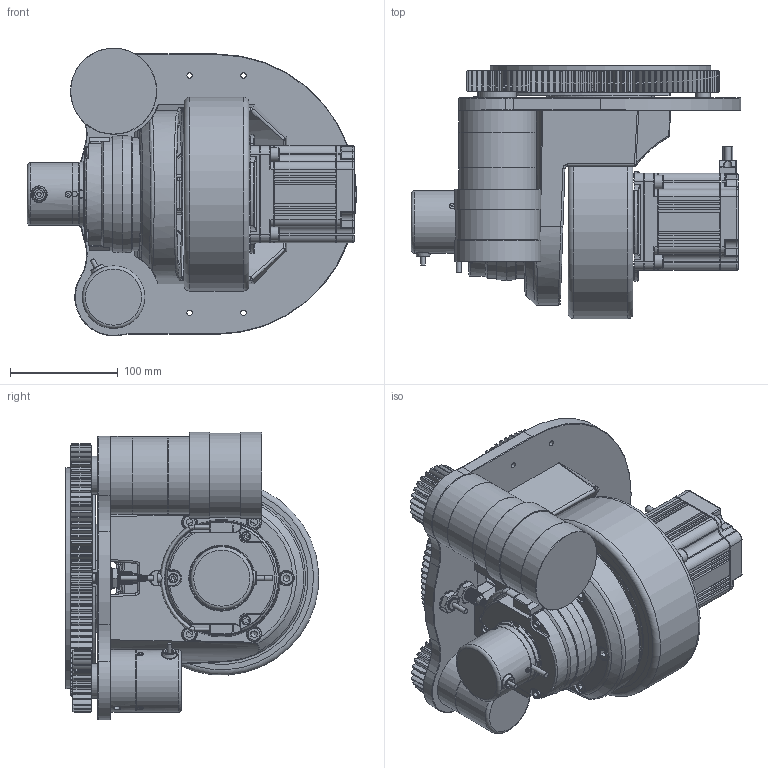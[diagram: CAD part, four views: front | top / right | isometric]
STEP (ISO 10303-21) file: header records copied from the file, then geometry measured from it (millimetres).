
FILE_DESCRIPTION (( 'STEP AP214' ), '1' );
FILE_NAME ('ZLW-235-3504-1204.STEP', '2019-04-23T23:47:34', ( '' ), ( '' ), 'SwSTEP 2.0', 'SolidWorks 2016', '' );
FILE_SCHEMA (( 'AUTOMOTIVE_DESIGN' ));
Length unit declared in the file: millimetre
Products named in the file (1): ZLW-235-3504-1204
Bounding box: 305.5 x 234.81 x 266.9 mm (x, y, z)
Surface area: 636344.5 mm2 (no closed solid volume)
Topology: 0 solids, 115 shells, 2052 faces, 6500 edges, 4433 vertices
Faces by surface type: cylinder 966, plane 558, cone 341, torus 95, bspline 75, sphere 17
Full cylindrical faces by diameter (mm): 1.5 x2, 3 x6, 3.3 x4, 4 x2, 4.5 x2, 4.7 x1, 5 x5, 5.1 x1, 5.54 x4, 6 x4, 6.5 x1, 6.8 x12, 8 x3, 8.5 x3, 9 x8, 9.43 x1, 9.5 x1, 10 x2, 12 x1, 13 x6, 14 x6, 15 x8, 16.7 x1, 19.8 x1, 20 x1, 25 x1, 30 x1, 32 x1, 35 x1, 38 x1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
Entity records: 111610 total; most frequent: CARTESIAN_POINT 34195, DIRECTION 11760, ORIENTED_EDGE 10129, EDGE_CURVE 6180, AXIS2_PLACEMENT_3D 4652, VERTEX_POINT 4366, CIRCLE 2674, EDGE_LOOP 2517
